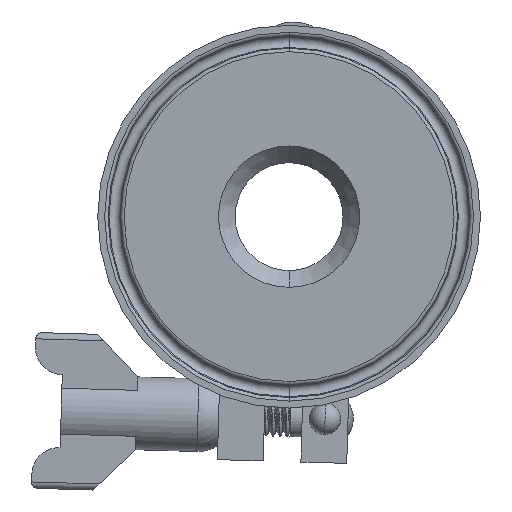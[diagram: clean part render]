
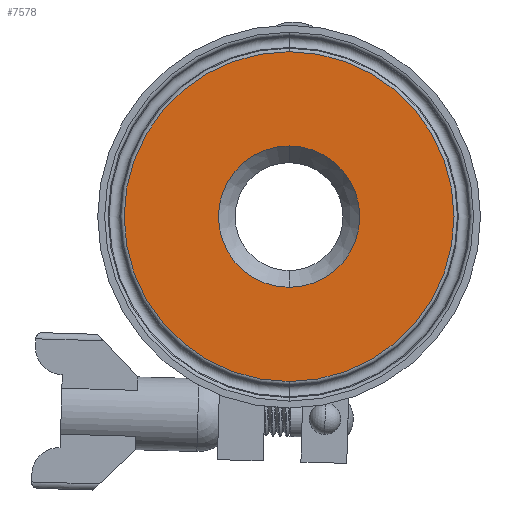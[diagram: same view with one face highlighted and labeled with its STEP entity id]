
A CAD part, front view. The second image highlights one B-rep face of the part: STEP entity #7578.
In plain terms, the highlighted planar face has unit normal (0, -1, 0).
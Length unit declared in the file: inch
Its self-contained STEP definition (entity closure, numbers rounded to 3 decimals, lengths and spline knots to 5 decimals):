
#10 = DIRECTION ( 'NONE',  ( 0., -1., 0. ) ) ;
#19 = DIRECTION ( 'NONE',  ( 0., 0., -1. ) ) ;
#411 = EDGE_LOOP ( 'NONE', ( #6584, #1878 ) ) ;
#665 = CARTESIAN_POINT ( 'NONE',  ( 1.07831, 0.94434, 2.80871 ) ) ;
#916 = CIRCLE ( 'NONE', #2733, 0.5625 ) ;
#1039 = CARTESIAN_POINT ( 'NONE',  ( 1.07831, 0.94434, 2.80871 ) ) ;
#1118 = VERTEX_POINT ( 'NONE', #6551 ) ;
#1715 = DIRECTION ( 'NONE',  ( 0., 0., -1. ) ) ;
#1878 = ORIENTED_EDGE ( 'NONE', *, *, #5576, .F. ) ;
#2094 = DIRECTION ( 'NONE',  ( 0., 0., -1. ) ) ;
#2098 = CARTESIAN_POINT ( 'NONE',  ( 1.07831, 0.94434, 2.80871 ) ) ;
#2243 = EDGE_CURVE ( 'NONE', #8907, #11702, #4987, .T. ) ;
#2351 = DIRECTION ( 'NONE',  ( 0., -1., 0. ) ) ;
#2405 = DIRECTION ( 'NONE',  ( 0., 1., 0. ) ) ;
#2733 = AXIS2_PLACEMENT_3D ( 'NONE', #1039, #8195, #2094 ) ;
#3147 = ORIENTED_EDGE ( 'NONE', *, *, #2243, .T. ) ;
#3863 = FACE_OUTER_BOUND ( 'NONE', #6232, .T. ) ;
#4213 = ORIENTED_EDGE ( 'NONE', *, *, #9108, .T. ) ;
#4987 = CIRCLE ( 'NONE', #5631, 1.31297 ) ;
#5454 = CARTESIAN_POINT ( 'NONE',  ( 0.51581, 0.94434, 2.80871 ) ) ;
#5576 = EDGE_CURVE ( 'NONE', #1118, #7533, #916, .T. ) ;
#5631 = AXIS2_PLACEMENT_3D ( 'NONE', #2098, #10, #19 ) ;
#5928 = AXIS2_PLACEMENT_3D ( 'NONE', #8446, #2351, #9447 ) ;
#6232 = EDGE_LOOP ( 'NONE', ( #4213, #3147 ) ) ;
#6302 = CARTESIAN_POINT ( 'NONE',  ( 1.07831, 0.94434, 2.24621 ) ) ;
#6551 = CARTESIAN_POINT ( 'NONE',  ( 1.07831, 0.94434, 3.37121 ) ) ;
#6584 = ORIENTED_EDGE ( 'NONE', *, *, #7516, .F. ) ;
#6673 = CARTESIAN_POINT ( 'NONE',  ( 1.07831, 0.94434, 1.49574 ) ) ;
#7133 = AXIS2_PLACEMENT_3D ( 'NONE', #665, #7839, #1715 ) ;
#7210 = CIRCLE ( 'NONE', #5928, 0.5625 ) ;
#7516 = EDGE_CURVE ( 'NONE', #7533, #1118, #7210, .T. ) ;
#7533 = VERTEX_POINT ( 'NONE', #6302 ) ;
#7578 = ADVANCED_FACE ( 'NONE', ( #9224, #3863 ), #11433, .F. ) ;
#7802 = CIRCLE ( 'NONE', #7133, 1.31297 ) ;
#7839 = DIRECTION ( 'NONE',  ( 0., -1., 0. ) ) ;
#8195 = DIRECTION ( 'NONE',  ( 0., -1., 0. ) ) ;
#8446 = CARTESIAN_POINT ( 'NONE',  ( 1.07831, 0.94434, 2.80871 ) ) ;
#8907 = VERTEX_POINT ( 'NONE', #10332 ) ;
#9108 = EDGE_CURVE ( 'NONE', #11702, #8907, #7802, .T. ) ;
#9224 = FACE_BOUND ( 'NONE', #411, .T. ) ;
#9286 = AXIS2_PLACEMENT_3D ( 'NONE', #5454, #2405, #9486 ) ;
#9447 = DIRECTION ( 'NONE',  ( 0., 0., -1. ) ) ;
#9486 = DIRECTION ( 'NONE',  ( 0., 0., 1. ) ) ;
#10332 = CARTESIAN_POINT ( 'NONE',  ( 1.07831, 0.94434, 4.12168 ) ) ;
#11433 = PLANE ( 'NONE',  #9286 ) ;
#11702 = VERTEX_POINT ( 'NONE', #6673 ) ;
